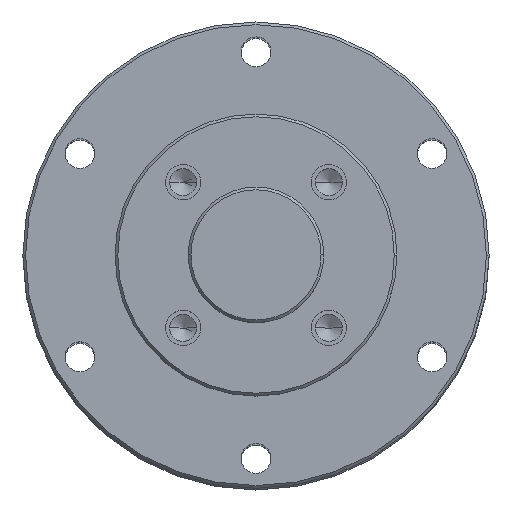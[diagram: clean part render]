
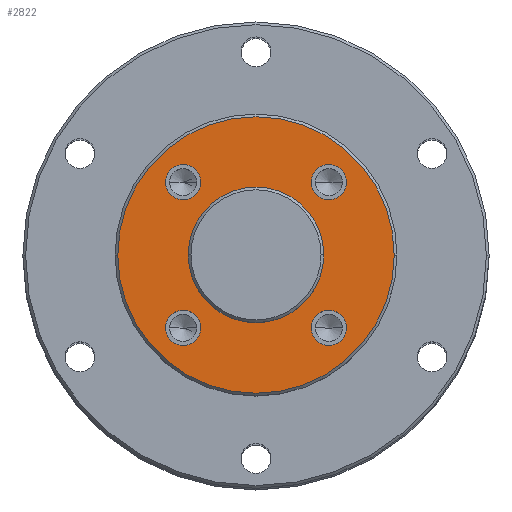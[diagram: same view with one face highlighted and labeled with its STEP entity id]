
A CAD part, top view. The second image highlights one B-rep face of the part: STEP entity #2822.
In plain terms, the highlighted planar face has unit normal (0, 0, 1).
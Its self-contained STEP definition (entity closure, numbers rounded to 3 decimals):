
#28 = CARTESIAN_POINT ( 'NONE',  ( 0., 26., 0. ) ) ;
#63 = AXIS2_PLACEMENT_3D ( 'NONE', #2747, #3468, #497 ) ;
#152 = ORIENTED_EDGE ( 'NONE', *, *, #183, .F. ) ;
#172 = AXIS2_PLACEMENT_3D ( 'NONE', #4539, #1945, #5029 ) ;
#183 = EDGE_CURVE ( 'NONE', #4145, #4907, #3951, .T. ) ;
#215 = CARTESIAN_POINT ( 'NONE',  ( -13.435, 13.435, 0. ) ) ;
#216 = EDGE_CURVE ( 'NONE', #4973, #3072, #5225, .T. ) ;
#315 = EDGE_CURVE ( 'NONE', #4643, #5198, #4460, .T. ) ;
#336 = AXIS2_PLACEMENT_3D ( 'NONE', #3820, #1307, #4284 ) ;
#345 = DIRECTION ( 'NONE',  ( 0., 0., 1. ) ) ;
#406 = AXIS2_PLACEMENT_3D ( 'NONE', #2145, #511, #3414 ) ;
#447 = DIRECTION ( 'NONE',  ( -1., 0., 0. ) ) ;
#465 = EDGE_LOOP ( 'NONE', ( #3194, #5302 ) ) ;
#497 = DIRECTION ( 'NONE',  ( -1., 0., 0. ) ) ;
#511 = DIRECTION ( 'NONE',  ( 0., 0., 1. ) ) ;
#559 = CARTESIAN_POINT ( 'NONE',  ( 0., 0., 0. ) ) ;
#626 = DIRECTION ( 'NONE',  ( 1., 0., 0. ) ) ;
#629 = CARTESIAN_POINT ( 'NONE',  ( -16.685, 13.435, 0. ) ) ;
#683 = EDGE_CURVE ( 'NONE', #828, #3978, #5218, .T. ) ;
#757 = CARTESIAN_POINT ( 'NONE',  ( -10.185, -13.435, 0. ) ) ;
#828 = VERTEX_POINT ( 'NONE', #3376 ) ;
#934 = CARTESIAN_POINT ( 'NONE',  ( -13.435, -13.435, 0. ) ) ;
#937 = FACE_BOUND ( 'NONE', #2802, .T. ) ;
#955 = DIRECTION ( 'NONE',  ( -1., 0., 0. ) ) ;
#994 = CIRCLE ( 'NONE', #406, 12.5 ) ;
#1013 = CARTESIAN_POINT ( 'NONE',  ( -13.435, 13.435, 0. ) ) ;
#1023 = AXIS2_PLACEMENT_3D ( 'NONE', #215, #3123, #626 ) ;
#1064 = EDGE_CURVE ( 'NONE', #2293, #1180, #994, .T. ) ;
#1065 = FACE_BOUND ( 'NONE', #4732, .T. ) ;
#1082 = ORIENTED_EDGE ( 'NONE', *, *, #3205, .T. ) ;
#1180 = VERTEX_POINT ( 'NONE', #3891 ) ;
#1295 = AXIS2_PLACEMENT_3D ( 'NONE', #2473, #5208, #2904 ) ;
#1307 = DIRECTION ( 'NONE',  ( 0., 0., 1. ) ) ;
#1346 = DIRECTION ( 'NONE',  ( -1., 0., 0. ) ) ;
#1361 = CARTESIAN_POINT ( 'NONE',  ( 16.685, -13.435, 0. ) ) ;
#1385 = ORIENTED_EDGE ( 'NONE', *, *, #4379, .F. ) ;
#1422 = DIRECTION ( 'NONE',  ( 1., 0., 0. ) ) ;
#1423 = ORIENTED_EDGE ( 'NONE', *, *, #216, .T. ) ;
#1649 = EDGE_CURVE ( 'NONE', #5198, #4643, #4069, .T. ) ;
#1690 = DIRECTION ( 'NONE',  ( 0., 0., 1. ) ) ;
#1911 = DIRECTION ( 'NONE',  ( 0., 0., 1. ) ) ;
#1945 = DIRECTION ( 'NONE',  ( 0., 0., 1. ) ) ;
#2145 = CARTESIAN_POINT ( 'NONE',  ( 0., 0., 0. ) ) ;
#2166 = FACE_BOUND ( 'NONE', #465, .T. ) ;
#2228 = CARTESIAN_POINT ( 'NONE',  ( 25.5, 0., 0. ) ) ;
#2276 = EDGE_CURVE ( 'NONE', #4343, #4280, #2573, .T. ) ;
#2293 = VERTEX_POINT ( 'NONE', #2358 ) ;
#2295 = FACE_OUTER_BOUND ( 'NONE', #5341, .T. ) ;
#2358 = CARTESIAN_POINT ( 'NONE',  ( 12.5, 0., 0. ) ) ;
#2406 = AXIS2_PLACEMENT_3D ( 'NONE', #4230, #1690, #4725 ) ;
#2436 = EDGE_LOOP ( 'NONE', ( #3180, #4948 ) ) ;
#2467 = ORIENTED_EDGE ( 'NONE', *, *, #2276, .F. ) ;
#2473 = CARTESIAN_POINT ( 'NONE',  ( -13.435, -13.435, 0. ) ) ;
#2499 = PLANE ( 'NONE',  #3293 ) ;
#2546 = AXIS2_PLACEMENT_3D ( 'NONE', #2827, #345, #3245 ) ;
#2573 = CIRCLE ( 'NONE', #172, 3.25 ) ;
#2701 = CIRCLE ( 'NONE', #336, 12.5 ) ;
#2747 = CARTESIAN_POINT ( 'NONE',  ( 0., 0., 0. ) ) ;
#2760 = AXIS2_PLACEMENT_3D ( 'NONE', #934, #3860, #1346 ) ;
#2802 = EDGE_LOOP ( 'NONE', ( #5106, #2467 ) ) ;
#2822 = ADVANCED_FACE ( 'NONE', ( #2295, #3159, #1065, #2166, #937, #5424 ), #2499, .F. ) ;
#2827 = CARTESIAN_POINT ( 'NONE',  ( 13.435, 13.435, 0. ) ) ;
#2871 = CARTESIAN_POINT ( 'NONE',  ( 10.185, 13.435, 0. ) ) ;
#2904 = DIRECTION ( 'NONE',  ( -1., 0., 0. ) ) ;
#2943 = DIRECTION ( 'NONE',  ( 0., 0., -1. ) ) ;
#3072 = VERTEX_POINT ( 'NONE', #2228 ) ;
#3123 = DIRECTION ( 'NONE',  ( 0., 0., 1. ) ) ;
#3159 = FACE_BOUND ( 'NONE', #4728, .T. ) ;
#3180 = ORIENTED_EDGE ( 'NONE', *, *, #1064, .F. ) ;
#3194 = ORIENTED_EDGE ( 'NONE', *, *, #683, .F. ) ;
#3205 = EDGE_CURVE ( 'NONE', #3072, #4973, #5072, .T. ) ;
#3206 = EDGE_CURVE ( 'NONE', #1180, #2293, #2701, .T. ) ;
#3245 = DIRECTION ( 'NONE',  ( -1., 0., 0. ) ) ;
#3293 = AXIS2_PLACEMENT_3D ( 'NONE', #28, #2943, #447 ) ;
#3330 = AXIS2_PLACEMENT_3D ( 'NONE', #559, #3465, #955 ) ;
#3363 = CARTESIAN_POINT ( 'NONE',  ( -16.685, -13.435, 0. ) ) ;
#3376 = CARTESIAN_POINT ( 'NONE',  ( 16.685, 13.435, 0. ) ) ;
#3414 = DIRECTION ( 'NONE',  ( 1., 0., 0. ) ) ;
#3465 = DIRECTION ( 'NONE',  ( 0., 0., 1. ) ) ;
#3468 = DIRECTION ( 'NONE',  ( 0., 0., 1. ) ) ;
#3495 = CIRCLE ( 'NONE', #2406, 3.25 ) ;
#3820 = CARTESIAN_POINT ( 'NONE',  ( 0., 0., 0. ) ) ;
#3860 = DIRECTION ( 'NONE',  ( 0., 0., 1. ) ) ;
#3887 = CIRCLE ( 'NONE', #5575, 3.25 ) ;
#3891 = CARTESIAN_POINT ( 'NONE',  ( -12.5, 0., 0. ) ) ;
#3938 = DIRECTION ( 'NONE',  ( 0., 0., 1. ) ) ;
#3951 = CIRCLE ( 'NONE', #2760, 3.25 ) ;
#3978 = VERTEX_POINT ( 'NONE', #2871 ) ;
#4069 = CIRCLE ( 'NONE', #1023, 3.25 ) ;
#4145 = VERTEX_POINT ( 'NONE', #3363 ) ;
#4230 = CARTESIAN_POINT ( 'NONE',  ( 13.435, -13.435, 0. ) ) ;
#4280 = VERTEX_POINT ( 'NONE', #1361 ) ;
#4284 = DIRECTION ( 'NONE',  ( 1., 0., 0. ) ) ;
#4343 = VERTEX_POINT ( 'NONE', #5333 ) ;
#4379 = EDGE_CURVE ( 'NONE', #4907, #4145, #5011, .T. ) ;
#4429 = ORIENTED_EDGE ( 'NONE', *, *, #1649, .F. ) ;
#4460 = CIRCLE ( 'NONE', #4849, 3.25 ) ;
#4498 = EDGE_CURVE ( 'NONE', #4280, #4343, #3495, .T. ) ;
#4507 = CARTESIAN_POINT ( 'NONE',  ( 13.435, 13.435, 0. ) ) ;
#4539 = CARTESIAN_POINT ( 'NONE',  ( 13.435, -13.435, 0. ) ) ;
#4643 = VERTEX_POINT ( 'NONE', #4874 ) ;
#4653 = CARTESIAN_POINT ( 'NONE',  ( -25.5, 0., 0. ) ) ;
#4725 = DIRECTION ( 'NONE',  ( 1., 0., 0. ) ) ;
#4728 = EDGE_LOOP ( 'NONE', ( #4868, #4429 ) ) ;
#4732 = EDGE_LOOP ( 'NONE', ( #1385, #152 ) ) ;
#4750 = EDGE_CURVE ( 'NONE', #3978, #828, #3887, .T. ) ;
#4849 = AXIS2_PLACEMENT_3D ( 'NONE', #1013, #3938, #1422 ) ;
#4868 = ORIENTED_EDGE ( 'NONE', *, *, #315, .F. ) ;
#4874 = CARTESIAN_POINT ( 'NONE',  ( -10.185, 13.435, 0. ) ) ;
#4907 = VERTEX_POINT ( 'NONE', #757 ) ;
#4948 = ORIENTED_EDGE ( 'NONE', *, *, #3206, .F. ) ;
#4973 = VERTEX_POINT ( 'NONE', #4653 ) ;
#4996 = DIRECTION ( 'NONE',  ( -1., 0., 0. ) ) ;
#5011 = CIRCLE ( 'NONE', #1295, 3.25 ) ;
#5029 = DIRECTION ( 'NONE',  ( 1., 0., 0. ) ) ;
#5072 = CIRCLE ( 'NONE', #63, 25.5 ) ;
#5106 = ORIENTED_EDGE ( 'NONE', *, *, #4498, .F. ) ;
#5198 = VERTEX_POINT ( 'NONE', #629 ) ;
#5208 = DIRECTION ( 'NONE',  ( 0., 0., 1. ) ) ;
#5218 = CIRCLE ( 'NONE', #2546, 3.25 ) ;
#5225 = CIRCLE ( 'NONE', #3330, 25.5 ) ;
#5302 = ORIENTED_EDGE ( 'NONE', *, *, #4750, .F. ) ;
#5333 = CARTESIAN_POINT ( 'NONE',  ( 10.185, -13.435, 0. ) ) ;
#5341 = EDGE_LOOP ( 'NONE', ( #1423, #1082 ) ) ;
#5424 = FACE_BOUND ( 'NONE', #2436, .T. ) ;
#5575 = AXIS2_PLACEMENT_3D ( 'NONE', #4507, #1911, #4996 ) ;
